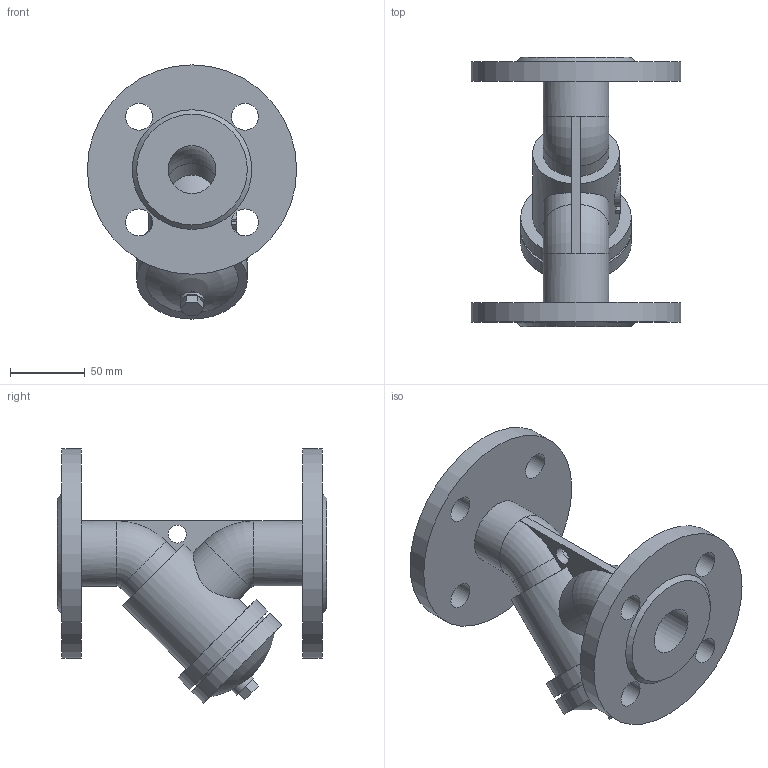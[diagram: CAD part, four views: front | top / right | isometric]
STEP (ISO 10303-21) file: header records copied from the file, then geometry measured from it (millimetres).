
FILE_DESCRIPTION(('STEP AP203'), '1');
FILE_NAME('Ôèëüòð ñåò÷àòûé ôëàíöåâûé 021Y DN32 PN10_PN16', '', ('UNSPECIFIED'), ('UNSPECIFIED'), 'ASCON STEP Converter 1.6', 'ASCON Math Kernel', '');
FILE_SCHEMA(('CONFIG_CONTROL_DESIGN'));
Length unit declared in the file: millimetre
Bounding box: 140 x 180 x 170 mm (x, y, z)
Volume: 744084 mm3; surface area: 130903.9 mm2
Topology: 1 solids, 1 shells, 76 faces, 170 edges, 109 vertices
Faces by surface type: plane 37, cylinder 32, torus 4, cone 2, sphere 1
Full cylindrical faces by diameter (mm): 12 x1, 16 x1, 18 x8, 32 x4, 44 x2, 58 x1, 64 x1, 74 x2, 140 x2
Entity records: 3743 total; most frequent: CARTESIAN_POINT 1443, DIRECTION 351, ORIENTED_EDGE 282, AXIS2_PLACEMENT_3D 146, EDGE_CURVE 141, EDGE_LOOP 135, VERTEX_POINT 108, FACE_BOUND 86
